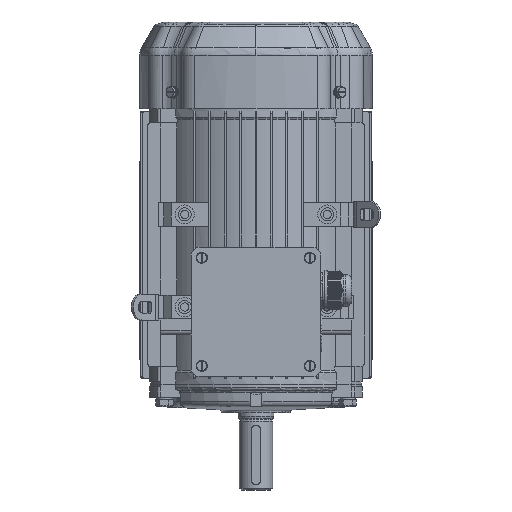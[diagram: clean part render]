
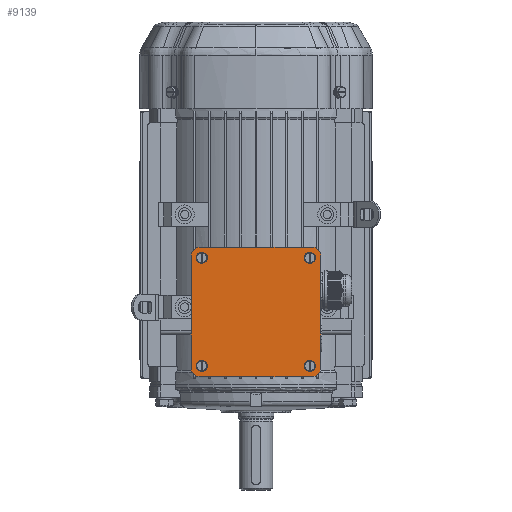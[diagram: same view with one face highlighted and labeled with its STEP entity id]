
A CAD part, left-side view. The second image highlights one B-rep face of the part: STEP entity #9139.
In plain terms, the highlighted planar face has unit normal (-1, 0, 0).
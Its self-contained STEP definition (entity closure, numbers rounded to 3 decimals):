
#9139=ADVANCED_FACE('',(#27504,#27505,#27506,#27507,#27508),#12846,.T.);
#12846=PLANE('',#80417);
#16404=LINE('',#115210,#22686);
#16405=LINE('',#115214,#22687);
#16406=LINE('',#115218,#22688);
#16407=LINE('',#115222,#22689);
#22686=VECTOR('',#91698,1.);
#22687=VECTOR('',#91701,1.);
#22688=VECTOR('',#91704,1.);
#22689=VECTOR('',#91707,1.);
#27504=FACE_BOUND('',#29924,.T.);
#27505=FACE_BOUND('',#29925,.T.);
#27506=FACE_BOUND('',#29926,.T.);
#27507=FACE_BOUND('',#29927,.T.);
#27508=FACE_BOUND('',#29928,.T.);
#29924=EDGE_LOOP('',(#40112));
#29925=EDGE_LOOP('',(#40113));
#29926=EDGE_LOOP('',(#40114,#40115,#40116,#40117,#40118,#40119,#40120,#40121));
#29927=EDGE_LOOP('',(#40122));
#29928=EDGE_LOOP('',(#40123));
#40112=ORIENTED_EDGE('',*,*,#67093,.T.);
#40113=ORIENTED_EDGE('',*,*,#67094,.F.);
#40114=ORIENTED_EDGE('',*,*,#67095,.F.);
#40115=ORIENTED_EDGE('',*,*,#67096,.F.);
#40116=ORIENTED_EDGE('',*,*,#67097,.F.);
#40117=ORIENTED_EDGE('',*,*,#67098,.F.);
#40118=ORIENTED_EDGE('',*,*,#67099,.F.);
#40119=ORIENTED_EDGE('',*,*,#67100,.F.);
#40120=ORIENTED_EDGE('',*,*,#67101,.F.);
#40121=ORIENTED_EDGE('',*,*,#67102,.F.);
#40122=ORIENTED_EDGE('',*,*,#67103,.T.);
#40123=ORIENTED_EDGE('',*,*,#67104,.T.);
#58431=VERTEX_POINT('',#115204);
#58432=VERTEX_POINT('',#115206);
#58433=VERTEX_POINT('',#115208);
#58434=VERTEX_POINT('',#115209);
#58435=VERTEX_POINT('',#115211);
#58436=VERTEX_POINT('',#115213);
#58437=VERTEX_POINT('',#115215);
#58438=VERTEX_POINT('',#115217);
#58439=VERTEX_POINT('',#115219);
#58440=VERTEX_POINT('',#115221);
#58441=VERTEX_POINT('',#115224);
#58442=VERTEX_POINT('',#115226);
#67093=EDGE_CURVE('',#58431,#58431,#76084,.T.);
#67094=EDGE_CURVE('',#58432,#58432,#76085,.T.);
#67095=EDGE_CURVE('',#58433,#58434,#76086,.T.);
#67096=EDGE_CURVE('',#58435,#58433,#16404,.T.);
#67097=EDGE_CURVE('',#58436,#58435,#76087,.T.);
#67098=EDGE_CURVE('',#58437,#58436,#16405,.T.);
#67099=EDGE_CURVE('',#58438,#58437,#76088,.T.);
#67100=EDGE_CURVE('',#58439,#58438,#16406,.T.);
#67101=EDGE_CURVE('',#58440,#58439,#76089,.T.);
#67102=EDGE_CURVE('',#58434,#58440,#16407,.T.);
#67103=EDGE_CURVE('',#58441,#58441,#76090,.T.);
#67104=EDGE_CURVE('',#58442,#58442,#76091,.T.);
#76084=CIRCLE('',#80409,2.9);
#76085=CIRCLE('',#80410,2.9);
#76086=CIRCLE('',#80411,7.);
#76087=CIRCLE('',#80412,7.);
#76088=CIRCLE('',#80413,7.);
#76089=CIRCLE('',#80414,7.);
#76090=CIRCLE('',#80415,2.9);
#76091=CIRCLE('',#80416,2.9);
#80409=AXIS2_PLACEMENT_3D('',#115203,#91692,#91693);
#80410=AXIS2_PLACEMENT_3D('',#115205,#91694,#91695);
#80411=AXIS2_PLACEMENT_3D('',#115207,#91696,#91697);
#80412=AXIS2_PLACEMENT_3D('',#115212,#91699,#91700);
#80413=AXIS2_PLACEMENT_3D('',#115216,#91702,#91703);
#80414=AXIS2_PLACEMENT_3D('',#115220,#91705,#91706);
#80415=AXIS2_PLACEMENT_3D('',#115223,#91708,#91709);
#80416=AXIS2_PLACEMENT_3D('',#115225,#91710,#91711);
#80417=AXIS2_PLACEMENT_3D('',#115227,#91712,#91713);
#91692=DIRECTION('',(1.,0.,0.));
#91693=DIRECTION('',(0.,1.,0.));
#91694=DIRECTION('',(-1.,0.,0.));
#91695=DIRECTION('',(0.,1.,0.));
#91696=DIRECTION('',(1.,0.,0.));
#91697=DIRECTION('',(0.,1.,0.));
#91698=DIRECTION('',(0.,0.,1.));
#91699=DIRECTION('',(1.,0.,0.));
#91700=DIRECTION('',(0.,1.,0.));
#91701=DIRECTION('',(0.,1.,0.));
#91702=DIRECTION('',(1.,0.,0.));
#91703=DIRECTION('',(0.,1.,0.));
#91704=DIRECTION('',(0.,0.,-1.));
#91705=DIRECTION('',(1.,0.,0.));
#91706=DIRECTION('',(0.,1.,0.));
#91707=DIRECTION('',(0.,-1.,0.));
#91708=DIRECTION('',(1.,0.,0.));
#91709=DIRECTION('',(0.,1.,0.));
#91710=DIRECTION('',(1.,0.,0.));
#91711=DIRECTION('',(0.,1.,0.));
#91712=DIRECTION('',(-1.,0.,0.));
#91713=DIRECTION('',(0.,1.,0.));
#115203=CARTESIAN_POINT('',(-156.5,45.618,106.5));
#115204=CARTESIAN_POINT('',(-156.5,48.518,106.5));
#115205=CARTESIAN_POINT('',(-156.5,45.618,15.5));
#115206=CARTESIAN_POINT('',(-156.5,48.518,15.5));
#115207=CARTESIAN_POINT('',(-156.5,47.618,108.5));
#115208=CARTESIAN_POINT('',(-156.5,54.618,108.5));
#115209=CARTESIAN_POINT('',(-156.5,47.618,115.5));
#115210=CARTESIAN_POINT('',(-156.5,54.618,61.));
#115211=CARTESIAN_POINT('',(-156.5,54.618,13.5));
#115212=CARTESIAN_POINT('',(-156.5,47.618,13.5));
#115213=CARTESIAN_POINT('',(-156.5,47.618,6.5));
#115214=CARTESIAN_POINT('',(-156.5,0.118,6.5));
#115215=CARTESIAN_POINT('',(-156.5,-47.382,6.5));
#115216=CARTESIAN_POINT('',(-156.5,-47.382,13.5));
#115217=CARTESIAN_POINT('',(-156.5,-54.382,13.5));
#115218=CARTESIAN_POINT('',(-156.5,-54.382,61.));
#115219=CARTESIAN_POINT('',(-156.5,-54.382,108.5));
#115220=CARTESIAN_POINT('',(-156.5,-47.382,108.5));
#115221=CARTESIAN_POINT('',(-156.5,-47.382,115.5));
#115222=CARTESIAN_POINT('',(-156.5,0.118,115.5));
#115223=CARTESIAN_POINT('',(-156.5,-45.382,106.5));
#115224=CARTESIAN_POINT('',(-156.5,-42.482,106.5));
#115225=CARTESIAN_POINT('',(-156.5,-45.382,15.5));
#115226=CARTESIAN_POINT('',(-156.5,-42.482,15.5));
#115227=CARTESIAN_POINT('',(-156.5,0.118,61.));
